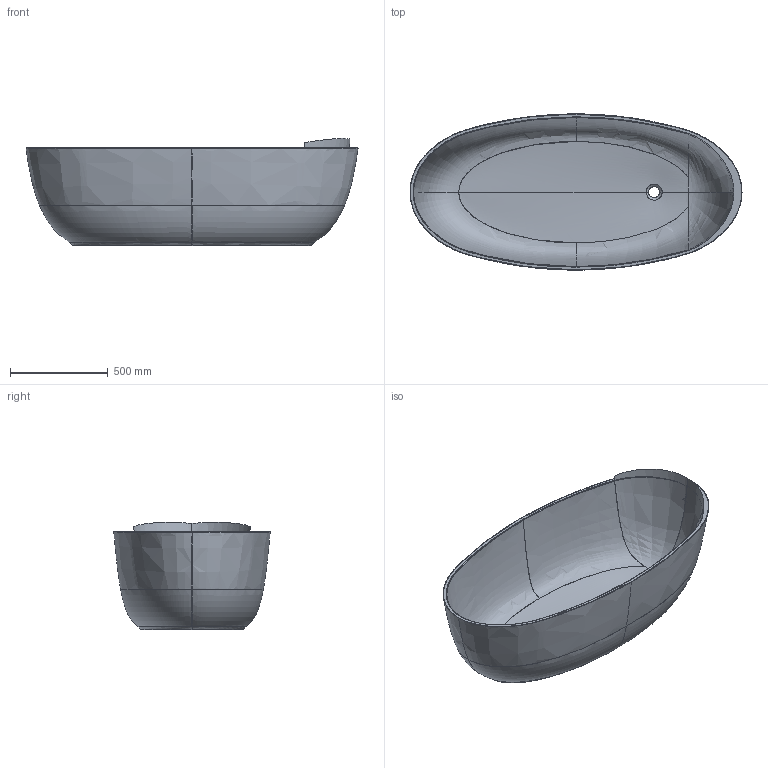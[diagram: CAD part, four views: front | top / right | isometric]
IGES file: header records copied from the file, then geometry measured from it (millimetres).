
Start section: Data from Parasolid IGES Translator 22.0.50, Copyright(c) 2006 Siemens P LM Software. All Rights Reserved.
Global section: file name: noorth-bathtub-H50 D80 W169_9681.IGS; native system: By Siemens PLM Incorporated; preprocessor: XPlus GENERIC/IGES 22.0.50; author: Noname; organization: Noname; date: 20250701.215536; units: metre
Bounding box: 1700.03 x 799.95 x 548.76 mm (x, y, z)
Surface area: 5108026.1 mm2 (no closed solid volume)
Topology: 0 solids, 0 shells, 126 faces, 1023 edges, 1023 vertices
Faces by surface type: bspline 75, revolution 33, extrusion 18
